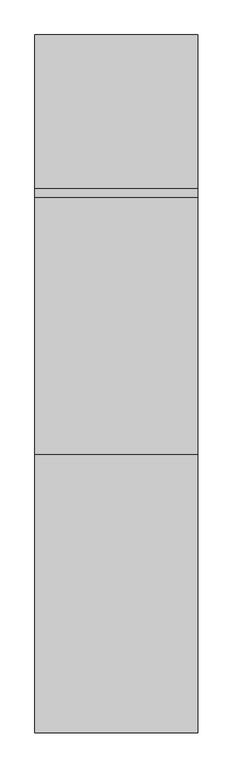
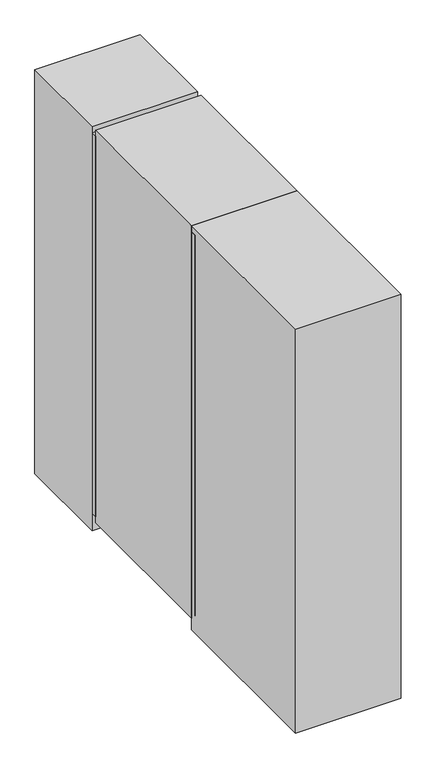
"""IFC4 building model written with IfcOpenShell, lengths in millimetres: furniture geometry, BIMHealth-Power_Amplifier_Cabinet_MRI-LOD2A-v1 : BIMHealth-Power_Amplifier_Cabinet_MRI-LOD2A-v1."""

from ifc_helpers import new_model, si_unit, point, frame, frame_2d, origin, origin_with_axes, place, context, project, spatial, polyline, circle_curve, trimmed, segment, composite_curve, outline, extrude, source, transform, mapped, element, save


def furniture_6abc4a86(model_context):
    return source(origin(), model_context, "Body", "SweptSolid", [
        extrude(outline(polyline([(-212.5, 760.0), (212.5, 760.0), (212.5, 360.0), (-212.5, 360.0), (-212.5, 760.0)])), origin_with_axes(), (0.0, 0.0, 1.0), 1720.0),
        extrude(outline(polyline([(212.5, -335.0), (212.5, -1060.0), (-212.5, -1060.0), (-212.5, -335.0), (212.5, -335.0)])), origin_with_axes(), (0.0, 0.0, 1.0), 1720.0),
        extrude(outline(composite_curve([segment(trimmed(circle_curve(frame_2d((152.9094132, -298.6212772)), 10.0), [point((162.9094132, -298.6212772))], [point((142.9094132, -298.6212772))], False, "CARTESIAN"), True, "CONTINUOUS"), segment(trimmed(circle_curve(frame_2d((152.9094132, -298.6212772)), 10.0), [point((142.9094132, -298.6212772))], [point((162.9094132, -298.6212772))], False, "CARTESIAN"), True, "CONTINUOUS")], self_intersect=False)), origin_with_axes(), (0.0, 0.0, 1.0), 50.0),
        extrude(outline(composite_curve([segment(trimmed(circle_curve(frame_2d((-152.9094132, -298.6212772)), 10.0), [point((-162.9094132, -298.6212772))], [point((-142.9094132, -298.6212772))], False, "CARTESIAN"), True, "CONTINUOUS"), segment(trimmed(circle_curve(frame_2d((-152.9094132, -298.6212772)), 10.0), [point((-142.9094132, -298.6212772))], [point((-162.9094132, -298.6212772))], False, "CARTESIAN"), True, "CONTINUOUS")], self_intersect=False)), origin_with_axes(), (0.0, 0.0, 1.0), 50.0),
        extrude(outline(composite_curve([segment(trimmed(circle_curve(frame_2d((152.9094132, 298.6212772)), 10.0), [point((162.9094132, 298.6212772))], [point((142.9094132, 298.6212772))], False, "CARTESIAN"), True, "CONTINUOUS"), segment(trimmed(circle_curve(frame_2d((152.9094132, 298.6212772)), 10.0), [point((142.9094132, 298.6212772))], [point((162.9094132, 298.6212772))], False, "CARTESIAN"), True, "CONTINUOUS")], self_intersect=False)), origin_with_axes(), (0.0, 0.0, 1.0), 50.0),
        extrude(outline(polyline([(450.0, -162.5), (435.8578644, -162.5), (125.0, 148.3578644), (125.0, 162.5), (450.0, -162.5)])), frame((0.0, 335.0, 0.0), z_axis=(0.0, 1.0, 0.0), x_axis=(0.0, 0.0, 1.0)), (0.0, 0.0, 1.0), 15.0),
        extrude(outline(polyline([(365.1471863, -162.5), (351.0050506, -162.5), (125.0, 63.5050506), (125.0, 77.6471863), (365.1471863, -162.5)])), frame((0.0, 335.0, 0.0), z_axis=(0.0, 1.0, 0.0), x_axis=(0.0, 0.0, 1.0)), (0.0, 0.0, 1.0), 15.0),
        extrude(outline(polyline([(280.2943725, -162.5), (266.1522369, -162.5), (125.0, -21.3477631), (125.0, -7.2056275), (280.2943725, -162.5)])), frame((0.0, 335.0, 0.0), z_axis=(0.0, 1.0, 0.0), x_axis=(0.0, 0.0, 1.0)), (0.0, 0.0, 1.0), 15.0),
        extrude(outline(polyline([(195.4415588, -162.5), (181.2994231, -162.5), (125.0, -106.2005769), (125.0, -92.0584412), (195.4415588, -162.5)])), frame((0.0, 335.0, 0.0), z_axis=(0.0, 1.0, 0.0), x_axis=(0.0, 0.0, 1.0)), (0.0, 0.0, 1.0), 15.0),
        extrude(outline(polyline([(520.7106781, -162.5), (195.7106781, 162.5), (209.8528137, 162.5), (534.8528137, -162.5), (520.7106781, -162.5)])), frame((0.0, 335.0, 0.0), z_axis=(0.0, 1.0, 0.0), x_axis=(0.0, 0.0, 1.0)), (0.0, 0.0, 1.0), 15.0),
        extrude(outline(polyline([(294.7056275, 162.5), (619.7056275, -162.5), (605.5634919, -162.5), (280.5634919, 162.5), (294.7056275, 162.5)])), frame((0.0, 335.0, 0.0), z_axis=(0.0, 1.0, 0.0), x_axis=(0.0, 0.0, 1.0)), (0.0, 0.0, 1.0), 15.0),
        extrude(outline(polyline([(379.5584412, 162.5), (704.5584412, -162.5), (690.4163056, -162.5), (365.4163056, 162.5), (379.5584412, 162.5)])), frame((0.0, 335.0, 0.0), z_axis=(0.0, 1.0, 0.0), x_axis=(0.0, 0.0, 1.0)), (0.0, 0.0, 1.0), 15.0),
        extrude(outline(polyline([(464.411255, 162.5), (789.411255, -162.5), (775.2691193, -162.5), (450.2691193, 162.5), (464.411255, 162.5)])), frame((0.0, 335.0, 0.0), z_axis=(0.0, 1.0, 0.0), x_axis=(0.0, 0.0, 1.0)), (0.0, 0.0, 1.0), 15.0),
        extrude(outline(polyline([(860.1219331, -162.5), (535.1219331, 162.5), (549.2640687, 162.5), (874.2640687, -162.5), (860.1219331, -162.5)])), frame((0.0, 335.0, 0.0), z_axis=(0.0, 1.0, 0.0), x_axis=(0.0, 0.0, 1.0)), (0.0, 0.0, 1.0), 15.0),
        extrude(outline(polyline([(944.9747468, -162.5), (619.9747468, 162.5), (634.1168825, 162.5), (959.1168825, -162.5), (944.9747468, -162.5)])), frame((0.0, 335.0, 0.0), z_axis=(0.0, 1.0, 0.0), x_axis=(0.0, 0.0, 1.0)), (0.0, 0.0, 1.0), 15.0),
        extrude(outline(polyline([(1029.8275606, -162.5), (829.8275606, 37.5), (843.9696962, 37.5), (1043.9696962, -162.5), (1029.8275606, -162.5)])), frame((0.0, 335.0, 0.0), z_axis=(0.0, 1.0, 0.0), x_axis=(0.0, 0.0, 1.0)), (0.0, 0.0, 1.0), 15.0),
        extrude(outline(polyline([(1114.6803743, -162.5), (875.0, 77.1803743), (875.0, 91.3225099), (1128.8225099, -162.5), (1114.6803743, -162.5)])), frame((0.0, 335.0, 0.0), z_axis=(0.0, 1.0, 0.0), x_axis=(0.0, 0.0, 1.0)), (0.0, 0.0, 1.0), 15.0),
        extrude(outline(polyline([(1645.0, -98.8499295), (1383.6500705, 162.5), (1397.7922061, 162.5), (1645.0, -84.7077939), (1645.0, -98.8499295)])), frame((0.0, 335.0, 0.0), z_axis=(0.0, 1.0, 0.0), x_axis=(0.0, 0.0, 1.0)), (0.0, 0.0, 1.0), 15.0),
        extrude(outline(polyline([(803.8225099, 162.5), (828.8225099, 137.5), (814.6803743, 137.5), (789.6803743, 162.5), (803.8225099, 162.5)])), frame((0.0, 335.0, 0.0), z_axis=(0.0, 1.0, 0.0), x_axis=(0.0, 0.0, 1.0)), (0.0, 0.0, 1.0), 15.0),
        extrude(outline(polyline([(718.9696962, 162.5), (775.0, 106.4696962), (775.0, 92.3275606), (704.8275606, 162.5), (718.9696962, 162.5)])), frame((0.0, 335.0, 0.0), z_axis=(0.0, 1.0, 0.0), x_axis=(0.0, 0.0, 1.0)), (0.0, 0.0, 1.0), 15.0),
        extrude(outline(polyline([(1199.5331881, -162.5), (874.5331881, 162.5), (888.6753237, 162.5), (1213.6753237, -162.5), (1199.5331881, -162.5)])), frame((0.0, 335.0, 0.0), z_axis=(0.0, 1.0, 0.0), x_axis=(0.0, 0.0, 1.0)), (0.0, 0.0, 1.0), 15.0),
        extrude(outline(polyline([(1284.3860018, -162.5), (959.3860018, 162.5), (973.5281374, 162.5), (1298.5281374, -162.5), (1284.3860018, -162.5)])), frame((0.0, 335.0, 0.0), z_axis=(0.0, 1.0, 0.0), x_axis=(0.0, 0.0, 1.0)), (0.0, 0.0, 1.0), 15.0),
        extrude(outline(polyline([(1369.2388155, -162.5), (1044.2388155, 162.5), (1058.3809512, 162.5), (1383.3809512, -162.5), (1369.2388155, -162.5)])), frame((0.0, 335.0, 0.0), z_axis=(0.0, 1.0, 0.0), x_axis=(0.0, 0.0, 1.0)), (0.0, 0.0, 1.0), 15.0),
        extrude(outline(polyline([(1454.0916293, -162.5), (1129.0916293, 162.5), (1143.2337649, 162.5), (1468.2337649, -162.5), (1454.0916293, -162.5)])), frame((0.0, 335.0, 0.0), z_axis=(0.0, 1.0, 0.0), x_axis=(0.0, 0.0, 1.0)), (0.0, 0.0, 1.0), 15.0),
        extrude(outline(polyline([(1645.0, -13.9971157), (1468.5028843, 162.5), (1482.6450199, 162.5), (1645.0, 0.1450199), (1645.0, -13.9971157)])), frame((0.0, 335.0, 0.0), z_axis=(0.0, 1.0, 0.0), x_axis=(0.0, 0.0, 1.0)), (0.0, 0.0, 1.0), 15.0),
        extrude(outline(polyline([(1645.0, 70.855698), (1553.355698, 162.5), (1567.4978336, 162.5), (1645.0, 84.9978336), (1645.0, 70.855698)])), frame((0.0, 335.0, 0.0), z_axis=(0.0, 1.0, 0.0), x_axis=(0.0, 0.0, 1.0)), (0.0, 0.0, 1.0), 15.0),
        extrude(outline(polyline([(1538.944443, -162.5), (1213.944443, 162.5), (1228.0865787, 162.5), (1553.0865787, -162.5), (1538.944443, -162.5)])), frame((0.0, 335.0, 0.0), z_axis=(0.0, 1.0, 0.0), x_axis=(0.0, 0.0, 1.0)), (0.0, 0.0, 1.0), 15.0),
        extrude(outline(polyline([(1623.7972568, -162.5), (1298.7972568, 162.5), (1312.9393924, 162.5), (1637.9393924, -162.5), (1623.7972568, -162.5)])), frame((0.0, 335.0, 0.0), z_axis=(0.0, 1.0, 0.0), x_axis=(0.0, 0.0, 1.0)), (0.0, 0.0, 1.0), 15.0),
        extrude(outline(polyline([(625.0, 162.5), (300.0, -162.5), (285.8578644, -162.5), (610.8578644, 162.5), (625.0, 162.5)])), frame((0.0, 335.0, 0.0), z_axis=(0.0, 1.0, 0.0), x_axis=(0.0, 0.0, 1.0)), (0.0, 0.0, 1.0), 15.0),
        extrude(outline(polyline([(540.1471863, 162.5), (215.1471863, -162.5), (201.0050506, -162.5), (526.0050506, 162.5), (540.1471863, 162.5)])), frame((0.0, 335.0, 0.0), z_axis=(0.0, 1.0, 0.0), x_axis=(0.0, 0.0, 1.0)), (0.0, 0.0, 1.0), 15.0),
        extrude(outline(polyline([(455.2943725, 162.5), (125.0, -167.7943725), (125.0, -153.6522369), (441.1522369, 162.5), (455.2943725, 162.5)])), frame((0.0, 335.0, 0.0), z_axis=(0.0, 1.0, 0.0), x_axis=(0.0, 0.0, 1.0)), (0.0, 0.0, 1.0), 15.0),
        extrude(outline(polyline([(370.4415588, 162.5), (125.0, -82.9415588), (125.0, -68.7994231), (356.2994231, 162.5), (370.4415588, 162.5)])), frame((0.0, 335.0, 0.0), z_axis=(0.0, 1.0, 0.0), x_axis=(0.0, 0.0, 1.0)), (0.0, 0.0, 1.0), 15.0),
        extrude(outline(polyline([(285.588745, 162.5), (125.0, 1.911255), (125.0, 16.0533906), (271.4466094, 162.5), (285.588745, 162.5)])), frame((0.0, 335.0, 0.0), z_axis=(0.0, 1.0, 0.0), x_axis=(0.0, 0.0, 1.0)), (0.0, 0.0, 1.0), 15.0),
        extrude(outline(polyline([(200.7359313, 162.5), (125.0, 86.7640687), (125.0, 100.9062043), (186.5937957, 162.5), (200.7359313, 162.5)])), frame((0.0, 335.0, 0.0), z_axis=(0.0, 1.0, 0.0), x_axis=(0.0, 0.0, 1.0)), (0.0, 0.0, 1.0), 15.0),
        extrude(outline(polyline([(695.7106781, 162.5), (709.8528137, 162.5), (384.8528137, -162.5), (370.7106781, -162.5), (695.7106781, 162.5)])), frame((0.0, 335.0, 0.0), z_axis=(0.0, 1.0, 0.0), x_axis=(0.0, 0.0, 1.0)), (0.0, 0.0, 1.0), 15.0),
        extrude(outline(polyline([(1035.1219331, 162.5), (1049.2640687, 162.5), (724.2640687, -162.5), (710.1219331, -162.5), (1035.1219331, 162.5)])), frame((0.0, 335.0, 0.0), z_axis=(0.0, 1.0, 0.0), x_axis=(0.0, 0.0, 1.0)), (0.0, 0.0, 1.0), 15.0),
        extrude(outline(polyline([(1119.9747468, 162.5), (1134.1168825, 162.5), (809.1168825, -162.5), (794.9747468, -162.5), (1119.9747468, 162.5)])), frame((0.0, 335.0, 0.0), z_axis=(0.0, 1.0, 0.0), x_axis=(0.0, 0.0, 1.0)), (0.0, 0.0, 1.0), 15.0),
        extrude(outline(polyline([(1204.8275606, 162.5), (1218.9696962, 162.5), (893.9696962, -162.5), (879.8275606, -162.5), (1204.8275606, 162.5)])), frame((0.0, 335.0, 0.0), z_axis=(0.0, 1.0, 0.0), x_axis=(0.0, 0.0, 1.0)), (0.0, 0.0, 1.0), 15.0),
        extrude(outline(polyline([(1289.6803743, 162.5), (1303.8225099, 162.5), (978.8225099, -162.5), (964.6803743, -162.5), (1289.6803743, 162.5)])), frame((0.0, 335.0, 0.0), z_axis=(0.0, 1.0, 0.0), x_axis=(0.0, 0.0, 1.0)), (0.0, 0.0, 1.0), 15.0),
        extrude(outline(polyline([(1374.5331881, 162.5), (1388.6753237, 162.5), (1063.6753237, -162.5), (1049.5331881, -162.5), (1374.5331881, 162.5)])), frame((0.0, 335.0, 0.0), z_axis=(0.0, 1.0, 0.0), x_axis=(0.0, 0.0, 1.0)), (0.0, 0.0, 1.0), 15.0),
        extrude(outline(polyline([(1459.3860018, 162.5), (1473.5281374, 162.5), (1148.5281374, -162.5), (1134.3860018, -162.5), (1459.3860018, 162.5)])), frame((0.0, 335.0, 0.0), z_axis=(0.0, 1.0, 0.0), x_axis=(0.0, 0.0, 1.0)), (0.0, 0.0, 1.0), 15.0),
        extrude(outline(polyline([(1544.2388155, 162.5), (1558.3809512, 162.5), (1233.3809512, -162.5), (1219.2388155, -162.5), (1544.2388155, 162.5)])), frame((0.0, 335.0, 0.0), z_axis=(0.0, 1.0, 0.0), x_axis=(0.0, 0.0, 1.0)), (0.0, 0.0, 1.0), 15.0),
        extrude(outline(polyline([(1629.0916293, 162.5), (1643.2337649, 162.5), (1318.2337649, -162.5), (1304.0916293, -162.5), (1629.0916293, 162.5)])), frame((0.0, 335.0, 0.0), z_axis=(0.0, 1.0, 0.0), x_axis=(0.0, 0.0, 1.0)), (0.0, 0.0, 1.0), 15.0),
        extrude(outline(polyline([(1645.0, 93.555557), (1645.0, 79.4134213), (1403.0865787, -162.5), (1388.944443, -162.5), (1645.0, 93.555557)])), frame((0.0, 335.0, 0.0), z_axis=(0.0, 1.0, 0.0), x_axis=(0.0, 0.0, 1.0)), (0.0, 0.0, 1.0), 15.0),
        extrude(outline(polyline([(1645.0, 8.7027432), (1645.0, -5.4393924), (1487.9393924, -162.5), (1473.7972568, -162.5), (1645.0, 8.7027432)])), frame((0.0, 335.0, 0.0), z_axis=(0.0, 1.0, 0.0), x_axis=(0.0, 0.0, 1.0)), (0.0, 0.0, 1.0), 15.0),
        extrude(outline(polyline([(1645.0, -76.1500705), (1645.0, -90.2922061), (1572.7922061, -162.5), (1558.6500705, -162.5), (1645.0, -76.1500705)])), frame((0.0, 335.0, 0.0), z_axis=(0.0, 1.0, 0.0), x_axis=(0.0, 0.0, 1.0)), (0.0, 0.0, 1.0), 15.0),
        extrude(outline(polyline([(469.7056275, -162.5), (455.5634919, -162.5), (780.5634919, 162.5), (794.7056275, 162.5), (469.7056275, -162.5)])), frame((0.0, 335.0, 0.0), z_axis=(0.0, 1.0, 0.0), x_axis=(0.0, 0.0, 1.0)), (0.0, 0.0, 1.0), 15.0),
        extrude(outline(polyline([(554.5584412, -162.5), (540.4163056, -162.5), (775.0, 72.0836944), (775.0, 57.9415588), (554.5584412, -162.5)])), frame((0.0, 335.0, 0.0), z_axis=(0.0, 1.0, 0.0), x_axis=(0.0, 0.0, 1.0)), (0.0, 0.0, 1.0), 15.0),
        extrude(outline(polyline([(865.4163056, 162.5), (879.5584412, 162.5), (854.5584412, 137.5), (840.4163056, 137.5), (865.4163056, 162.5)])), frame((0.0, 335.0, 0.0), z_axis=(0.0, 1.0, 0.0), x_axis=(0.0, 0.0, 1.0)), (0.0, 0.0, 1.0), 15.0),
        extrude(outline(polyline([(639.411255, -162.5), (625.2691193, -162.5), (825.2691193, 37.5), (839.411255, 37.5), (639.411255, -162.5)])), frame((0.0, 335.0, 0.0), z_axis=(0.0, 1.0, 0.0), x_axis=(0.0, 0.0, 1.0)), (0.0, 0.0, 1.0), 15.0),
        extrude(outline(polyline([(950.2691193, 162.5), (964.411255, 162.5), (875.0, 73.088745), (875.0, 87.2308807), (950.2691193, 162.5)])), frame((0.0, 335.0, 0.0), z_axis=(0.0, 1.0, 0.0), x_axis=(0.0, 0.0, 1.0)), (0.0, 0.0, 1.0), 15.0),
        extrude(outline(polyline([(75.0, -212.5), (75.0, 212.5), (1695.0, 212.5), (1695.0, -212.5), (75.0, -212.5)]), holes=[polyline([(1645.0, 162.5), (125.0, 162.5), (125.0, -162.5), (1645.0, -162.5), (1645.0, 162.5)])]), frame((0.0, 335.0, 0.0), z_axis=(0.0, 1.0, 0.0), x_axis=(0.0, 0.0, 1.0)), (0.0, 0.0, 1.0), 25.0),
        extrude(outline(polyline([(875.0, 37.5), (775.0, 37.5), (775.0, 137.5), (875.0, 137.5), (875.0, 37.5)]), holes=[composite_curve([segment(trimmed(circle_curve(frame_2d((825.0, 87.5)), 30.0), [point((825.0, 57.5))], [point((825.0, 117.5))], True, "CARTESIAN"), True, "CONTINUOUS"), segment(trimmed(circle_curve(frame_2d((825.0, 87.5)), 30.0), [point((825.0, 117.5))], [point((825.0, 57.5))], True, "CARTESIAN"), True, "CONTINUOUS")], self_intersect=False)]), frame((0.0, 335.0, 0.0), z_axis=(0.0, 1.0, 0.0), x_axis=(0.0, 0.0, 1.0)), (0.0, 0.0, 1.0), 25.0),
        extrude(outline(polyline([(300.0, -162.5), (285.8578644, -162.5), (318.4314575, -129.9264069), (283.0761184, -94.5710678), (247.7207794, -129.9264069), (280.2943725, -162.5), (266.1522369, -162.5), (240.6497116, -136.9974747), (215.1471863, -162.5), (201.0050506, -162.5), (233.5786438, -129.9264069), (198.2233047, -94.5710678), (162.8679656, -129.9264069), (195.4415588, -162.5), (181.2994231, -162.5), (155.7968978, -136.9974747), (125.0, -167.7943725), (125.0, -153.6522369), (148.72583, -129.9264069), (125.0, -106.2005769), (125.0, -92.0584412), (155.7968978, -122.8553391), (191.1522369, -87.5), (155.7968978, -52.1446609), (125.0, -82.9415588), (125.0, -68.7994231), (148.72583, -45.0735931), (125.0, -21.3477631), (125.0, -7.2056275), (155.7968978, -38.0025253), (191.1522369, -2.6471863), (155.7968978, 32.7081528), (125.0, 1.911255), (125.0, 16.0533906), (148.72583, 39.7792206), (125.0, 63.5050506), (125.0, 77.6471863), (155.7968978, 46.8502884), (191.1522369, 82.2056275), (155.7968978, 117.5609665), (125.0, 86.7640687), (125.0, 100.9062043), (148.72583, 124.6320344), (125.0, 148.3578644), (125.0, 162.5), (155.7968978, 131.7031022), (186.5937957, 162.5), (209.8528137, 162.5), (240.6497116, 131.7031022), (271.4466094, 162.5), (294.7056275, 162.5), (325.5025253, 131.7031022), (356.2994231, 162.5), (379.5584412, 162.5), (410.3553391, 131.7031022), (441.1522369, 162.5), (464.411255, 162.5), (495.2081528, 131.7031022), (526.0050506, 162.5), (549.2640687, 162.5), (580.0609665, 131.7031022), (610.8578644, 162.5), (634.1168825, 162.5), (664.9137803, 131.7031022), (695.7106781, 162.5), (718.9696962, 162.5), (749.766594, 131.7031022), (780.5634919, 162.5), (803.8225099, 162.5), (828.8225099, 137.5), (814.6803743, 137.5), (792.1930009, 159.9873734), (756.8376618, 124.6320344), (775.0, 106.4696962), (775.0, 92.3275606), (749.766594, 117.5609665), (714.411255, 82.2056275), (749.766594, 46.8502884), (775.0, 72.0836944), (775.0, 57.9415588), (756.8376618, 39.7792206), (792.1930009, 4.4238816), (825.2691193, 37.5), (843.9696962, 37.5), (877.0458146, 4.4238816), (912.4011537, 39.7792206), (877.0458146, 75.1345597), (875.0, 73.088745), (875.0, 91.3225099), (877.0458146, 89.2766953), (912.4011537, 124.6320344), (877.0458146, 159.9873734), (854.5584412, 137.5), (840.4163056, 137.5), (865.4163056, 162.5), (888.6753237, 162.5), (919.4722215, 131.7031022), (950.2691193, 162.5), (973.5281374, 162.5), (1004.3250353, 131.7031022), (1035.1219331, 162.5), (1058.3809512, 162.5), (1089.177849, 131.7031022), (1119.9747468, 162.5), (1143.2337649, 162.5), (1174.0306627, 131.7031022), (1204.8275606, 162.5), (1228.0865787, 162.5), (1258.8834765, 131.7031022), (1289.6803743, 162.5), (1312.9393924, 162.5), (1343.7362902, 131.7031022), (1374.5331881, 162.5), (1397.7922061, 162.5), (1428.589104, 131.7031022), (1459.3860018, 162.5), (1482.6450199, 162.5), (1513.4419177, 131.7031022), (1544.2388155, 162.5), (1567.4978336, 162.5), (1598.2947315, 131.7031022), (1629.0916293, 162.5), (1643.2337649, 162.5), (1605.3657993, 124.6320344), (1640.7211383, 89.2766953), (1645.0, 93.555557), (1645.0, 70.855698), (1640.7211383, 75.1345597), (1605.3657993, 39.7792206), (1640.7211383, 4.4238816), (1645.0, 8.7027432), (1645.0, -13.9971157), (1640.7211383, -9.7182541), (1605.3657993, -45.0735931), (1640.7211383, -80.4289322), (1645.0, -76.1500705), (1645.0, -98.8499295), (1640.7211383, -94.5710678), (1605.3657993, -129.9264069), (1637.9393924, -162.5), (1623.7972568, -162.5), (1598.2947315, -136.9974747), (1572.7922061, -162.5), (1558.6500705, -162.5), (1591.2236636, -129.9264069), (1555.8683246, -94.5710678), (1520.5129855, -129.9264069), (1553.0865787, -162.5), (1538.944443, -162.5), (1513.4419177, -136.9974747), (1487.9393924, -162.5), (1473.7972568, -162.5), (1506.3708499, -129.9264069), (1471.0155108, -94.5710678), (1435.6601718, -129.9264069), (1468.2337649, -162.5), (1454.0916293, -162.5), (1428.589104, -136.9974747), (1403.0865787, -162.5), (1388.944443, -162.5), (1421.5180362, -129.9264069), (1386.1626971, -94.5710678), (1350.807358, -129.9264069), (1383.3809512, -162.5), (1369.2388155, -162.5), (1343.7362902, -136.9974747), (1318.2337649, -162.5), (1304.0916293, -162.5), (1336.6652224, -129.9264069), (1301.3098834, -94.5710678), (1265.9545443, -129.9264069), (1298.5281374, -162.5), (1284.3860018, -162.5), (1258.8834765, -136.9974747), (1233.3809512, -162.5), (1219.2388155, -162.5), (1251.8124087, -129.9264069), (1216.4570696, -94.5710678), (1181.1017306, -129.9264069), (1213.6753237, -162.5), (1199.5331881, -162.5), (1174.0306627, -136.9974747), (1148.5281374, -162.5), (1134.3860018, -162.5), (1166.9595949, -129.9264069), (1131.6042559, -94.5710678), (1096.2489168, -129.9264069), (1128.8225099, -162.5), (1114.6803743, -162.5), (1089.177849, -136.9974747), (1063.6753237, -162.5), (1049.5331881, -162.5), (1082.1067812, -129.9264069), (1046.7514421, -94.5710678), (1011.3961031, -129.9264069), (1043.9696962, -162.5), (1029.8275606, -162.5), (1004.3250353, -136.9974747), (978.8225099, -162.5), (964.6803743, -162.5), (997.2539674, -129.9264069), (961.8986284, -94.5710678), (926.5432893, -129.9264069), (959.1168825, -162.5), (944.9747468, -162.5), (919.4722215, -136.9974747), (893.9696962, -162.5), (879.8275606, -162.5), (912.4011537, -129.9264069), (877.0458146, -94.5710678), (841.6904756, -129.9264069), (874.2640687, -162.5), (860.1219331, -162.5), (834.6194078, -136.9974747), (809.1168825, -162.5), (794.9747468, -162.5), (827.54834, -129.9264069), (792.1930009, -94.5710678), (756.8376618, -129.9264069), (789.411255, -162.5), (775.2691193, -162.5), (749.766594, -136.9974747), (724.2640687, -162.5), (710.1219331, -162.5), (742.6955262, -129.9264069), (707.3401872, -94.5710678), (671.9848481, -129.9264069), (704.5584412, -162.5), (690.4163056, -162.5), (664.9137803, -136.9974747), (639.411255, -162.5), (625.2691193, -162.5), (657.8427125, -129.9264069), (622.4873734, -94.5710678), (587.1320344, -129.9264069), (619.7056275, -162.5), (605.5634919, -162.5), (580.0609665, -136.9974747), (554.5584412, -162.5), (540.4163056, -162.5), (572.9898987, -129.9264069), (537.6345597, -94.5710678), (502.2792206, -129.9264069), (534.8528137, -162.5), (520.7106781, -162.5), (495.2081528, -136.9974747), (469.7056275, -162.5), (455.5634919, -162.5), (488.137085, -129.9264069), (452.7817459, -94.5710678), (417.4264069, -129.9264069), (450.0, -162.5), (435.8578644, -162.5), (410.3553391, -136.9974747), (384.8528137, -162.5), (370.7106781, -162.5), (403.2842712, -129.9264069), (367.9289322, -94.5710678), (332.5735931, -129.9264069), (365.1471863, -162.5), (351.0050506, -162.5), (325.5025253, -136.9974747), (300.0, -162.5)]), holes=[polyline([(410.3553391, -52.1446609), (375.0, -87.5), (410.3553391, -122.8553391), (445.7106781, -87.5), (410.3553391, -52.1446609)]), polyline([(622.4873734, 159.9873734), (587.1320344, 124.6320344), (622.4873734, 89.2766953), (657.8427125, 124.6320344), (622.4873734, 159.9873734)]), polyline([(452.7817459, -9.7182541), (417.4264069, -45.0735931), (452.7817459, -80.4289322), (488.137085, -45.0735931), (452.7817459, -9.7182541)]), polyline([(495.2081528, 32.7081528), (459.8528137, -2.6471863), (495.2081528, -38.0025253), (530.5634919, -2.6471863), (495.2081528, 32.7081528)]), polyline([(537.6345597, 75.1345597), (502.2792206, 39.7792206), (537.6345597, 4.4238816), (572.9898987, 39.7792206), (537.6345597, 75.1345597)]), polyline([(580.0609665, 117.5609665), (544.7056275, 82.2056275), (580.0609665, 46.8502884), (615.4163056, 82.2056275), (580.0609665, 117.5609665)]), polyline([(325.5025253, -122.8553391), (360.8578644, -87.5), (325.5025253, -52.1446609), (290.1471863, -87.5), (325.5025253, -122.8553391)]), polyline([(367.9289322, -80.4289322), (403.2842712, -45.0735931), (367.9289322, -9.7182541), (332.5735931, -45.0735931), (367.9289322, -80.4289322)]), polyline([(410.3553391, -38.0025253), (445.7106781, -2.6471863), (410.3553391, 32.7081528), (375.0, -2.6471863), (410.3553391, -38.0025253)]), polyline([(452.7817459, 4.4238816), (488.137085, 39.7792206), (452.7817459, 75.1345597), (417.4264069, 39.7792206), (452.7817459, 4.4238816)]), polyline([(495.2081528, 46.8502884), (530.5634919, 82.2056275), (495.2081528, 117.5609665), (459.8528137, 82.2056275), (495.2081528, 46.8502884)]), polyline([(537.6345597, 89.2766953), (572.9898987, 124.6320344), (537.6345597, 159.9873734), (502.2792206, 124.6320344), (537.6345597, 89.2766953)]), polyline([(283.0761184, -80.4289322), (318.4314575, -45.0735931), (283.0761184, -9.7182541), (247.7207794, -45.0735931), (283.0761184, -80.4289322)]), polyline([(325.5025253, -38.0025253), (360.8578644, -2.6471863), (325.5025253, 32.7081528), (290.1471863, -2.6471863), (325.5025253, -38.0025253)]), polyline([(367.9289322, 4.4238816), (403.2842712, 39.7792206), (367.9289322, 75.1345597), (332.5735931, 39.7792206), (367.9289322, 4.4238816)]), polyline([(410.3553391, 46.8502884), (445.7106781, 82.2056275), (410.3553391, 117.5609665), (375.0, 82.2056275), (410.3553391, 46.8502884)]), polyline([(240.6497116, -122.8553391), (276.0050506, -87.5), (240.6497116, -52.1446609), (205.2943725, -87.5), (240.6497116, -122.8553391)]), polyline([(452.7817459, 89.2766953), (488.137085, 124.6320344), (452.7817459, 159.9873734), (417.4264069, 124.6320344), (452.7817459, 89.2766953)]), polyline([(240.6497116, -38.0025253), (276.0050506, -2.6471863), (240.6497116, 32.7081528), (205.2943725, -2.6471863), (240.6497116, -38.0025253)]), polyline([(283.0761184, 4.4238816), (318.4314575, 39.7792206), (283.0761184, 75.1345597), (247.7207794, 39.7792206), (283.0761184, 4.4238816)]), polyline([(325.5025253, 46.8502884), (360.8578644, 82.2056275), (325.5025253, 117.5609665), (290.1471863, 82.2056275), (325.5025253, 46.8502884)]), polyline([(367.9289322, 89.2766953), (403.2842712, 124.6320344), (367.9289322, 159.9873734), (332.5735931, 124.6320344), (367.9289322, 89.2766953)]), polyline([(198.2233047, -80.4289322), (233.5786438, -45.0735931), (198.2233047, -9.7182541), (162.8679656, -45.0735931), (198.2233047, -80.4289322)]), polyline([(198.2233047, 4.4238816), (233.5786438, 39.7792206), (198.2233047, 75.1345597), (162.8679656, 39.7792206), (198.2233047, 4.4238816)]), polyline([(240.6497116, 46.8502884), (276.0050506, 82.2056275), (240.6497116, 117.5609665), (205.2943725, 82.2056275), (240.6497116, 46.8502884)]), polyline([(283.0761184, 89.2766953), (318.4314575, 124.6320344), (283.0761184, 159.9873734), (247.7207794, 124.6320344), (283.0761184, 89.2766953)]), polyline([(198.2233047, 89.2766953), (233.5786438, 124.6320344), (198.2233047, 159.9873734), (162.8679656, 124.6320344), (198.2233047, 89.2766953)]), polyline([(664.9137803, 117.5609665), (629.5584412, 82.2056275), (664.9137803, 46.8502884), (700.2691193, 82.2056275), (664.9137803, 117.5609665)]), polyline([(495.2081528, -52.1446609), (459.8528137, -87.5), (495.2081528, -122.8553391), (530.5634919, -87.5), (495.2081528, -52.1446609)]), polyline([(537.6345597, -9.7182541), (502.2792206, -45.0735931), (537.6345597, -80.4289322), (572.9898987, -45.0735931), (537.6345597, -9.7182541)]), polyline([(580.0609665, 32.7081528), (544.7056275, -2.6471863), (580.0609665, -38.0025253), (615.4163056, -2.6471863), (580.0609665, 32.7081528)]), polyline([(622.4873734, 75.1345597), (587.1320344, 39.7792206), (622.4873734, 4.4238816), (657.8427125, 39.7792206), (622.4873734, 75.1345597)]), polyline([(707.3401872, 159.9873734), (671.9848481, 124.6320344), (707.3401872, 89.2766953), (742.6955262, 124.6320344), (707.3401872, 159.9873734)]), polyline([(707.3401872, 75.1345597), (671.9848481, 39.7792206), (707.3401872, 4.4238816), (742.6955262, 39.7792206), (707.3401872, 75.1345597)]), polyline([(580.0609665, -52.1446609), (544.7056275, -87.5), (580.0609665, -122.8553391), (615.4163056, -87.5), (580.0609665, -52.1446609)]), polyline([(622.4873734, -9.7182541), (587.1320344, -45.0735931), (622.4873734, -80.4289322), (657.8427125, -45.0735931), (622.4873734, -9.7182541)]), polyline([(664.9137803, 32.7081528), (629.5584412, -2.6471863), (664.9137803, -38.0025253), (700.2691193, -2.6471863), (664.9137803, 32.7081528)]), polyline([(749.766594, 32.7081528), (714.411255, -2.6471863), (749.766594, -38.0025253), (785.1219331, -2.6471863), (749.766594, 32.7081528)]), polyline([(664.9137803, -52.1446609), (629.5584412, -87.5), (664.9137803, -122.8553391), (700.2691193, -87.5), (664.9137803, -52.1446609)]), polyline([(707.3401872, -9.7182541), (671.9848481, -45.0735931), (707.3401872, -80.4289322), (742.6955262, -45.0735931), (707.3401872, -9.7182541)]), polyline([(792.1930009, -9.7182541), (756.8376618, -45.0735931), (792.1930009, -80.4289322), (827.54834, -45.0735931), (792.1930009, -9.7182541)]), polyline([(749.766594, -52.1446609), (714.411255, -87.5), (749.766594, -122.8553391), (785.1219331, -87.5), (749.766594, -52.1446609)]), polyline([(834.6194078, 32.7081528), (799.2640687, -2.6471863), (834.6194078, -38.0025253), (869.9747468, -2.6471863), (834.6194078, 32.7081528)]), polyline([(834.6194078, -52.1446609), (799.2640687, -87.5), (834.6194078, -122.8553391), (869.9747468, -87.5), (834.6194078, -52.1446609)]), polyline([(1004.3250353, 117.5609665), (968.9696962, 82.2056275), (1004.3250353, 46.8502884), (1039.6803743, 82.2056275), (1004.3250353, 117.5609665)]), polyline([(1046.7514421, 159.9873734), (1011.3961031, 124.6320344), (1046.7514421, 89.2766953), (1082.1067812, 124.6320344), (1046.7514421, 159.9873734)]), polyline([(961.8986284, 75.1345597), (926.5432893, 39.7792206), (961.8986284, 4.4238816), (997.2539674, 39.7792206), (961.8986284, 75.1345597)]), polyline([(877.0458146, -9.7182541), (841.6904756, -45.0735931), (877.0458146, -80.4289322), (912.4011537, -45.0735931), (877.0458146, -9.7182541)]), polyline([(919.4722215, 32.7081528), (884.1168825, -2.6471863), (919.4722215, -38.0025253), (954.8275606, -2.6471863), (919.4722215, 32.7081528)]), polyline([(961.8986284, 89.2766953), (997.2539674, 124.6320344), (961.8986284, 159.9873734), (926.5432893, 124.6320344), (961.8986284, 89.2766953)]), polyline([(919.4722215, 46.8502884), (954.8275606, 82.2056275), (919.4722215, 117.5609665), (884.1168825, 82.2056275), (919.4722215, 46.8502884)]), polyline([(1046.7514421, 75.1345597), (1011.3961031, 39.7792206), (1046.7514421, 4.4238816), (1082.1067812, 39.7792206), (1046.7514421, 75.1345597)]), polyline([(1089.177849, 117.5609665), (1053.8225099, 82.2056275), (1089.177849, 46.8502884), (1124.5331881, 82.2056275), (1089.177849, 117.5609665)]), polyline([(1131.6042559, 159.9873734), (1096.2489168, 124.6320344), (1131.6042559, 89.2766953), (1166.9595949, 124.6320344), (1131.6042559, 159.9873734)]), polyline([(1004.3250353, 32.7081528), (968.9696962, -2.6471863), (1004.3250353, -38.0025253), (1039.6803743, -2.6471863), (1004.3250353, 32.7081528)]), polyline([(919.4722215, -52.1446609), (884.1168825, -87.5), (919.4722215, -122.8553391), (954.8275606, -87.5), (919.4722215, -52.1446609)]), polyline([(961.8986284, -9.7182541), (926.5432893, -45.0735931), (961.8986284, -80.4289322), (997.2539674, -45.0735931), (961.8986284, -9.7182541)]), polyline([(1089.177849, 32.7081528), (1053.8225099, -2.6471863), (1089.177849, -38.0025253), (1124.5331881, -2.6471863), (1089.177849, 32.7081528)]), polyline([(1131.6042559, 75.1345597), (1096.2489168, 39.7792206), (1131.6042559, 4.4238816), (1166.9595949, 39.7792206), (1131.6042559, 75.1345597)]), polyline([(1174.0306627, 117.5609665), (1138.6753237, 82.2056275), (1174.0306627, 46.8502884), (1209.3860018, 82.2056275), (1174.0306627, 117.5609665)]), polyline([(1216.4570696, 159.9873734), (1181.1017306, 124.6320344), (1216.4570696, 89.2766953), (1251.8124087, 124.6320344), (1216.4570696, 159.9873734)]), polyline([(1046.7514421, -9.7182541), (1011.3961031, -45.0735931), (1046.7514421, -80.4289322), (1082.1067812, -45.0735931), (1046.7514421, -9.7182541)]), polyline([(1004.3250353, -52.1446609), (968.9696962, -87.5), (1004.3250353, -122.8553391), (1039.6803743, -87.5), (1004.3250353, -52.1446609)]), polyline([(1131.6042559, -9.7182541), (1096.2489168, -45.0735931), (1131.6042559, -80.4289322), (1166.9595949, -45.0735931), (1131.6042559, -9.7182541)]), polyline([(1174.0306627, 32.7081528), (1138.6753237, -2.6471863), (1174.0306627, -38.0025253), (1209.3860018, -2.6471863), (1174.0306627, 32.7081528)]), polyline([(1216.4570696, 75.1345597), (1181.1017306, 39.7792206), (1216.4570696, 4.4238816), (1251.8124087, 39.7792206), (1216.4570696, 75.1345597)]), polyline([(1258.8834765, 117.5609665), (1223.5281374, 82.2056275), (1258.8834765, 46.8502884), (1294.2388155, 82.2056275), (1258.8834765, 117.5609665)]), polyline([(1301.3098834, 159.9873734), (1265.9545443, 124.6320344), (1301.3098834, 89.2766953), (1336.6652224, 124.6320344), (1301.3098834, 159.9873734)]), polyline([(1089.177849, -52.1446609), (1053.8225099, -87.5), (1089.177849, -122.8553391), (1124.5331881, -87.5), (1089.177849, -52.1446609)]), polyline([(1513.4419177, -52.1446609), (1478.0865787, -87.5), (1513.4419177, -122.8553391), (1548.7972568, -87.5), (1513.4419177, -52.1446609)]), polyline([(1555.8683246, -9.7182541), (1520.5129855, -45.0735931), (1555.8683246, -80.4289322), (1591.2236636, -45.0735931), (1555.8683246, -9.7182541)]), polyline([(1598.2947315, 32.7081528), (1562.9393924, -2.6471863), (1598.2947315, -38.0025253), (1633.6500705, -2.6471863), (1598.2947315, 32.7081528)]), polyline([(1428.589104, -122.8553391), (1463.944443, -87.5), (1428.589104, -52.1446609), (1393.2337649, -87.5), (1428.589104, -122.8553391)]), polyline([(1471.0155108, -80.4289322), (1506.3708499, -45.0735931), (1471.0155108, -9.7182541), (1435.6601718, -45.0735931), (1471.0155108, -80.4289322)]), polyline([(1513.4419177, -38.0025253), (1548.7972568, -2.6471863), (1513.4419177, 32.7081528), (1478.0865787, -2.6471863), (1513.4419177, -38.0025253)]), polyline([(1555.8683246, 4.4238816), (1591.2236636, 39.7792206), (1555.8683246, 75.1345597), (1520.5129855, 39.7792206), (1555.8683246, 4.4238816)]), polyline([(1598.2947315, 46.8502884), (1633.6500705, 82.2056275), (1598.2947315, 117.5609665), (1562.9393924, 82.2056275), (1598.2947315, 46.8502884)]), polyline([(1598.2947315, -52.1446609), (1562.9393924, -87.5), (1598.2947315, -122.8553391), (1633.6500705, -87.5), (1598.2947315, -52.1446609)]), polyline([(1174.0306627, -52.1446609), (1138.6753237, -87.5), (1174.0306627, -122.8553391), (1209.3860018, -87.5), (1174.0306627, -52.1446609)]), polyline([(1216.4570696, -9.7182541), (1181.1017306, -45.0735931), (1216.4570696, -80.4289322), (1251.8124087, -45.0735931), (1216.4570696, -9.7182541)]), polyline([(1258.8834765, 32.7081528), (1223.5281374, -2.6471863), (1258.8834765, -38.0025253), (1294.2388155, -2.6471863), (1258.8834765, 32.7081528)]), polyline([(1301.3098834, 75.1345597), (1265.9545443, 39.7792206), (1301.3098834, 4.4238816), (1336.6652224, 39.7792206), (1301.3098834, 75.1345597)]), polyline([(1343.7362902, 117.5609665), (1308.3809512, 82.2056275), (1343.7362902, 46.8502884), (1379.0916293, 82.2056275), (1343.7362902, 117.5609665)]), polyline([(1386.1626971, 159.9873734), (1350.807358, 124.6320344), (1386.1626971, 89.2766953), (1421.5180362, 124.6320344), (1386.1626971, 159.9873734)]), polyline([(1258.8834765, -52.1446609), (1223.5281374, -87.5), (1258.8834765, -122.8553391), (1294.2388155, -87.5), (1258.8834765, -52.1446609)]), polyline([(1301.3098834, -9.7182541), (1265.9545443, -45.0735931), (1301.3098834, -80.4289322), (1336.6652224, -45.0735931), (1301.3098834, -9.7182541)]), polyline([(1343.7362902, 32.7081528), (1308.3809512, -2.6471863), (1343.7362902, -38.0025253), (1379.0916293, -2.6471863), (1343.7362902, 32.7081528)]), polyline([(1386.1626971, 75.1345597), (1350.807358, 39.7792206), (1386.1626971, 4.4238816), (1421.5180362, 39.7792206), (1386.1626971, 75.1345597)]), polyline([(1428.589104, 117.5609665), (1393.2337649, 82.2056275), (1428.589104, 46.8502884), (1463.944443, 82.2056275), (1428.589104, 117.5609665)]), polyline([(1471.0155108, 159.9873734), (1435.6601718, 124.6320344), (1471.0155108, 89.2766953), (1506.3708499, 124.6320344), (1471.0155108, 159.9873734)]), polyline([(1343.7362902, -52.1446609), (1308.3809512, -87.5), (1343.7362902, -122.8553391), (1379.0916293, -87.5), (1343.7362902, -52.1446609)]), polyline([(1386.1626971, -9.7182541), (1350.807358, -45.0735931), (1386.1626971, -80.4289322), (1421.5180362, -45.0735931), (1386.1626971, -9.7182541)]), polyline([(1428.589104, 32.7081528), (1393.2337649, -2.6471863), (1428.589104, -38.0025253), (1463.944443, -2.6471863), (1428.589104, 32.7081528)]), polyline([(1471.0155108, 75.1345597), (1435.6601718, 39.7792206), (1471.0155108, 4.4238816), (1506.3708499, 39.7792206), (1471.0155108, 75.1345597)]), polyline([(1513.4419177, 117.5609665), (1478.0865787, 82.2056275), (1513.4419177, 46.8502884), (1548.7972568, 82.2056275), (1513.4419177, 117.5609665)]), polyline([(1555.8683246, 159.9873734), (1520.5129855, 124.6320344), (1555.8683246, 89.2766953), (1591.2236636, 124.6320344), (1555.8683246, 159.9873734)])]), frame((0.0, -350.0, 0.0), z_axis=(0.0, 1.0, 0.0), x_axis=(0.0, 0.0, 1.0)), (0.0, 0.0, 1.0), 15.0),
        extrude(outline(polyline([(75.0, -212.5), (75.0, 212.5), (1695.0, 212.5), (1695.0, -212.5), (75.0, -212.5)]), holes=[polyline([(1645.0, 162.5), (125.0, 162.5), (125.0, -162.5), (1645.0, -162.5), (1645.0, 162.5)])]), frame((0.0, -360.0, 0.0), z_axis=(0.0, 1.0, 0.0), x_axis=(0.0, 0.0, 1.0)), (0.0, 0.0, 1.0), 25.0),
        extrude(outline(polyline([(875.0, 37.5), (775.0, 37.5), (775.0, 137.5), (875.0, 137.5), (875.0, 37.5)]), holes=[composite_curve([segment(trimmed(circle_curve(frame_2d((825.0, 87.5)), 30.0), [point((825.0, 57.5))], [point((825.0, 117.5))], True, "CARTESIAN"), True, "CONTINUOUS"), segment(trimmed(circle_curve(frame_2d((825.0, 87.5)), 30.0), [point((825.0, 117.5))], [point((825.0, 57.5))], True, "CARTESIAN"), True, "CONTINUOUS")], self_intersect=False)]), frame((0.0, -360.0, 0.0), z_axis=(0.0, 1.0, 0.0), x_axis=(0.0, 0.0, 1.0)), (0.0, 0.0, 1.0), 25.0),
        extrude(outline(polyline([(187.5, 0.0), (-187.5, 0.0), (-187.5, 335.0), (187.5, 335.0), (187.5, 0.0)])), frame((0.0, 0.0, 265.0), z_axis=(0.0, 0.0, 1.0), x_axis=(1.0, 0.0, 0.0)), (0.0, 0.0, 1.0), 15.0),
        extrude(outline(polyline([(187.5, 0.0), (-187.5, 0.0), (-187.5, 335.0), (187.5, 335.0), (187.5, 0.0)])), frame((0.0, 0.0, 1465.0), z_axis=(0.0, 0.0, 1.0), x_axis=(1.0, 0.0, 0.0)), (0.0, 0.0, 1.0), 15.0),
        extrude(outline(polyline([(187.5, 0.0), (-187.5, 0.0), (-187.5, 335.0), (187.5, 335.0), (187.5, 0.0)])), frame((0.0, 0.0, 1225.0), z_axis=(0.0, 0.0, 1.0), x_axis=(1.0, 0.0, 0.0)), (0.0, 0.0, 1.0), 15.0),
        extrude(outline(polyline([(187.5, 0.0), (-187.5, 0.0), (-187.5, 335.0), (187.5, 335.0), (187.5, 0.0)])), frame((0.0, 0.0, 985.0), z_axis=(0.0, 0.0, 1.0), x_axis=(1.0, 0.0, 0.0)), (0.0, 0.0, 1.0), 15.0),
        extrude(outline(polyline([(187.5, 0.0), (-187.5, 0.0), (-187.5, 335.0), (187.5, 335.0), (187.5, 0.0)])), frame((0.0, 0.0, 745.0), z_axis=(0.0, 0.0, 1.0), x_axis=(1.0, 0.0, 0.0)), (0.0, 0.0, 1.0), 15.0),
        extrude(outline(polyline([(187.5, 0.0), (-187.5, 0.0), (-187.5, 335.0), (187.5, 335.0), (187.5, 0.0)])), frame((0.0, 0.0, 505.0), z_axis=(0.0, 0.0, 1.0), x_axis=(1.0, 0.0, 0.0)), (0.0, 0.0, 1.0), 15.0),
        extrude(outline(polyline([(187.5, 0.0), (187.5, -335.0), (-187.5, -335.0), (-187.5, 0.0), (187.5, 0.0)])), frame((0.0, 0.0, 265.0), z_axis=(0.0, 0.0, 1.0), x_axis=(1.0, 0.0, 0.0)), (0.0, 0.0, 1.0), 15.0),
        extrude(outline(polyline([(187.5, 0.0), (187.5, -335.0), (-187.5, -335.0), (-187.5, 0.0), (187.5, 0.0)])), frame((0.0, 0.0, 1465.0), z_axis=(0.0, 0.0, 1.0), x_axis=(1.0, 0.0, 0.0)), (0.0, 0.0, 1.0), 15.0),
        extrude(outline(polyline([(187.5, 0.0), (187.5, -335.0), (-187.5, -335.0), (-187.5, 0.0), (187.5, 0.0)])), frame((0.0, 0.0, 1225.0), z_axis=(0.0, 0.0, 1.0), x_axis=(1.0, 0.0, 0.0)), (0.0, 0.0, 1.0), 15.0),
        extrude(outline(polyline([(187.5, 0.0), (187.5, -335.0), (-187.5, -335.0), (-187.5, 0.0), (187.5, 0.0)])), frame((0.0, 0.0, 985.0), z_axis=(0.0, 0.0, 1.0), x_axis=(1.0, 0.0, 0.0)), (0.0, 0.0, 1.0), 15.0),
        extrude(outline(polyline([(187.5, 0.0), (187.5, -335.0), (-187.5, -335.0), (-187.5, 0.0), (187.5, 0.0)])), frame((0.0, 0.0, 745.0), z_axis=(0.0, 0.0, 1.0), x_axis=(1.0, 0.0, 0.0)), (0.0, 0.0, 1.0), 15.0),
        extrude(outline(polyline([(187.5, 0.0), (187.5, -335.0), (-187.5, -335.0), (-187.5, 0.0), (187.5, 0.0)])), frame((0.0, 0.0, 505.0), z_axis=(0.0, 0.0, 1.0), x_axis=(1.0, 0.0, 0.0)), (0.0, 0.0, 1.0), 15.0),
        extrude(outline(composite_curve([segment(trimmed(circle_curve(frame_2d((-152.9094132, 298.6212772)), 10.0), [point((-162.9094132, 298.6212772))], [point((-142.9094132, 298.6212772))], False, "CARTESIAN"), True, "CONTINUOUS"), segment(trimmed(circle_curve(frame_2d((-152.9094132, 298.6212772)), 10.0), [point((-142.9094132, 298.6212772))], [point((-162.9094132, 298.6212772))], False, "CARTESIAN"), True, "CONTINUOUS")], self_intersect=False)), origin_with_axes(), (0.0, 0.0, 1.0), 50.0),
        extrude(outline(polyline([(1720.0, -212.5), (50.0, -212.5), (50.0, 212.5), (1720.0, 212.5), (1720.0, -212.5)]), holes=[polyline([(1670.0, 187.5), (100.0, 187.5), (100.0, -187.5), (1670.0, -187.5), (1670.0, 187.5)])]), frame((0.0, -335.0, 0.0), z_axis=(0.0, 1.0, 0.0), x_axis=(0.0, 0.0, 1.0)), (0.0, 0.0, 1.0), 670.0),
    ])


if __name__ == "__main__":
    model = new_model("IFC4")
    model_context = context("Model", 3, world=origin())
    ifc_project = project(units=[si_unit("LENGTHUNIT", "METRE", prefix="MILLI")], contexts=[model_context])
    site = spatial("IfcSite", under=ifc_project)
    building = spatial("IfcBuilding", under=site)
    placement = place(None, origin())
    furniture_shape = furniture_6abc4a86(model_context)
    element("IfcFurniture", 1, ObjectType="BIMHealth-Power_Amplifier_Cabinet_MRI-LOD2A-v1 : BIMHealth-Power_Amplifier_Cabinet_MRI-LOD2A-v1", at=placement, inside=building, context=model_context, shape_type="MappedRepresentation", body=[
        mapped(furniture_shape, transform((0.0, 0.0, 0.0), x_axis=(1.0, 0.0, 0.0), y_axis=(0.0, 1.0, 0.0), z_axis=(0.0, 0.0, 1.0))),
    ])
    save(model, "model.ifc")
